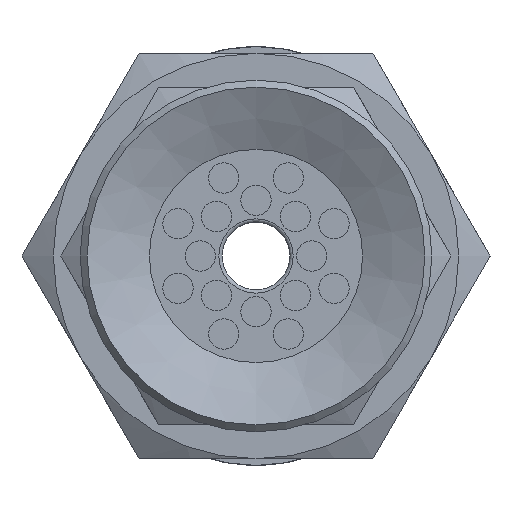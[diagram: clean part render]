
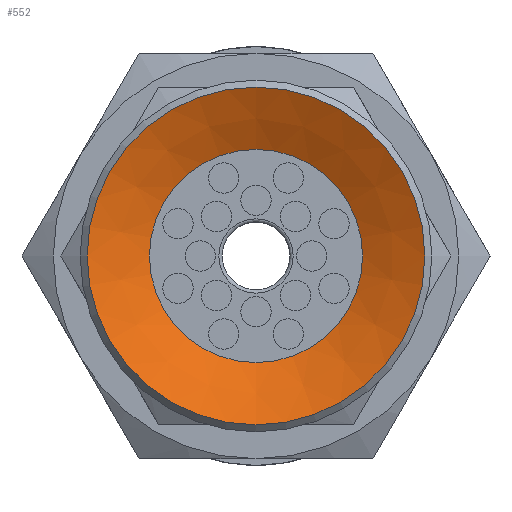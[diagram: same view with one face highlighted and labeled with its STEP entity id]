
A CAD part, front view. The second image highlights one B-rep face of the part: STEP entity #552.
In plain terms, the highlighted conical face has half-angle 64 degrees and reference radius 5 mm.
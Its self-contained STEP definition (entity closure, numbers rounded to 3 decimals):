
#552=ADVANCED_FACE('',(#877,#878),#879,.F.);
#877=FACE_BOUND('',#1561,.T.);
#878=FACE_OUTER_BOUND('',#1562,.T.);
#879=CONICAL_SURFACE('',#1563,5.0,1.117);
#1561=EDGE_LOOP('',(#2400));
#1562=EDGE_LOOP('',(#2401));
#1563=AXIS2_PLACEMENT_3D('',#2402,#2403,#2404);
#2400=ORIENTED_EDGE('',*,*,#3087,.T.);
#2401=ORIENTED_EDGE('',*,*,#3088,.F.);
#2402=CARTESIAN_POINT('',(0.0,0.,0.));
#2403=DIRECTION('',(0.0,0.,-1.0));
#2404=DIRECTION('',(0.0,1.0,0.));
#3087=EDGE_CURVE('',#3503,#3503,#3504,.T.);
#3088=EDGE_CURVE('',#3505,#3505,#3506,.T.);
#3503=VERTEX_POINT('',#4601);
#3504=CIRCLE('',#4602,3.155);
#3505=VERTEX_POINT('',#4603);
#3506=CIRCLE('',#4604,5.0);
#4601=CARTESIAN_POINT('',(0.0,-3.155,0.9));
#4602=AXIS2_PLACEMENT_3D('',#5164,#5165,#5166);
#4603=CARTESIAN_POINT('',(0.0,-5.0,0.));
#4604=AXIS2_PLACEMENT_3D('',#5167,#5168,#5169);
#5164=CARTESIAN_POINT('',(0.0,0.,0.9));
#5165=DIRECTION('',(0.0,0.,1.0));
#5166=DIRECTION('',(0.0,-1.0,0.));
#5167=CARTESIAN_POINT('',(0.0,0.,0.));
#5168=DIRECTION('',(0.0,0.,1.0));
#5169=DIRECTION('',(0.0,-1.0,0.));
